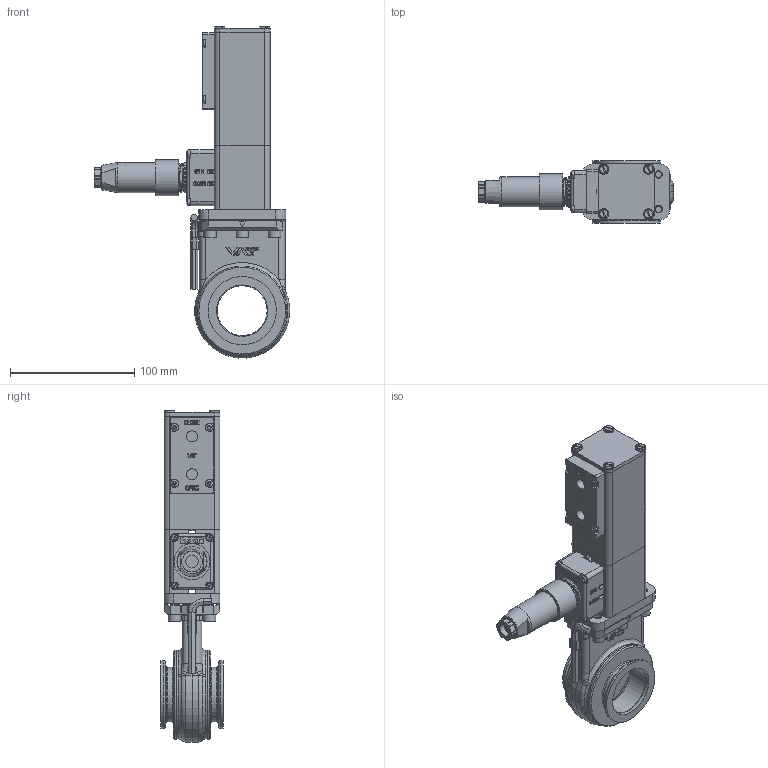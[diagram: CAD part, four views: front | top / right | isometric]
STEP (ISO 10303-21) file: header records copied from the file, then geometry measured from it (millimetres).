
FILE_DESCRIPTION(/* description */ (''),/* implementation_level */ '2;1');
FILE_NAME(/* name */ '1503525400_203.stp',/* time_stamp */ '2022-02-02T08:49:36+01:00',/* author */ (''),/* organization */ (''),/* preprocessor_version */ 'ST-DEVELOPER v18.1',/* originating_system */ 'SIEMENS PLM Software NX 1973',/* authorisation */ '');
FILE_SCHEMA (('AP203_CONFIGURATION_CONTROLLED_3D_DESIGN_OF_MECHANICAL_PARTS_AND_ASSEMBLIES_MIM_LF { 1 0 10303 403 2 1 2}'));
Products named in the file (34): 63150-01_36222ID; 63150-01_36213ID; 63152-01.4_36200ID; 69672-01; 69252-01_36254ID; 69252-01_36204ID; 83434-01.1; 69852-01; 63172-01; n-6024-526; 101400-01.2; 69846-01; n-8504-002; 723790; 66490-01.2; 66238-02.1; 252066.1; 252080.1; 66481-01.2; 70613-01.2; 69968-01.1; 73280-01_1.1; 228772.1; 318865; 63170-r1; 777710_NX-ARRAGMNTMassbild; 792925; 777483_NX-ARRAGMNTMassbild; 777482_NX-ARRAGMNTMassbild; 777481_NX-ARRAGMNTMassbild; 777465_NX-ARRAGMNTMassbild; 777439_NX-ARRAGMNTMassbild; 777461_NX-ARRAGMNTMassbild; 319158
Assembly tree (51 placements, depth 5):
  319158
    777461_NX-ARRAGMNTMassbild
      777439_NX-ARRAGMNTMassbild
        777465_NX-ARRAGMNTMassbild
          63152-01.4_36200ID
      70613-01.2
      66481-01.2
      252080.1
      252066.1  x4
      66238-02.1  x4
      66490-01.2
    228772.1  x6
    73280-01_1.1
    69968-01.1
    777481_NX-ARRAGMNTMassbild
      723790  x4
      777482_NX-ARRAGMNTMassbild
        69252-01_36204ID
        69252-01_36254ID
      n-8504-002
      777483_NX-ARRAGMNTMassbild
        69672-01
      69846-01
    792925
      101400-01.2
      n-6024-526  x4
    777710_NX-ARRAGMNTMassbild
      63172-01
      63170-r1
        318865
          63150-01_36213ID
          63150-01_36222ID
      69852-01
      83434-01.1  x2
Bounding box: 157.17 x 50 x 267.21 mm (x, y, z)
Volume: 299666.6 mm3; surface area: 176682.9 mm2
Topology: 53 solids, 53 shells, 1778 faces, 4449 edges, 2918 vertices
Faces by surface type: plane 1093, cylinder 404, extrusion 108, bspline 62, cone 59, torus 48, sphere 4
Full cylindrical faces by diameter (mm): 1.66 x7, 1.95 x4, 2 x2, 2.25 x4, 2.5 x8, 2.693 x4, 3 x12, 3.3 x12, 3.4 x6, 3.485 x4, 4 x12, 4.15 x4, 4.65 x4, 4.96 x6, 5 x6, 5.4 x4, 5.6 x8, 6 x26, 6.2 x6, 8.1 x4, 8.806 x2, 10 x7, 10.008 x1, 13.3 x1, 13.85 x1, 14.9 x1, 15 x1, 17.55 x1, 18 x2, 22.2 x2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
Entity records: 54941 total; most frequent: CARTESIAN_POINT 16721, ORIENTED_EDGE 7096, DIRECTION 6280, EDGE_CURVE 3548, VERTEX_POINT 2436, AXIS2_PLACEMENT_3D 2105, VECTOR 2070, LINE 1962
